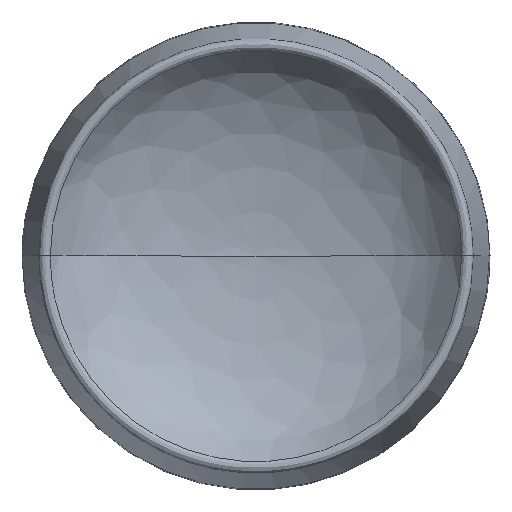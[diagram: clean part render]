
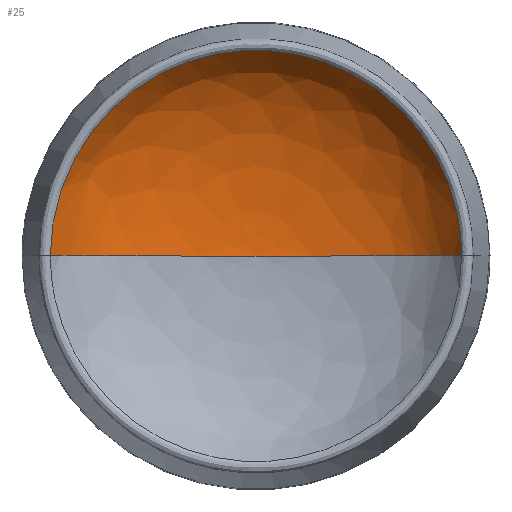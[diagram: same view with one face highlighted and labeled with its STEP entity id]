
A CAD part, top view. The second image highlights one B-rep face of the part: STEP entity #25.
In plain terms, the highlighted free-form (B-spline) face has degree [2, 3] with [5, 5] control points.
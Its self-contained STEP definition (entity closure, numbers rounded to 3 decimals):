
#25=ADVANCED_FACE('',(#43),#237,.T.);
#43=FACE_OUTER_BOUND('',#61,.T.);
#61=EDGE_LOOP('',(#80,#81,#82));
#80=ORIENTED_EDGE('',*,*,#167,.T.);
#81=ORIENTED_EDGE('',*,*,#148,.F.);
#82=ORIENTED_EDGE('',*,*,#157,.F.);
#148=EDGE_CURVE('',#217,#216,#210,.T.);
#157=EDGE_CURVE('',#224,#217,#189,.T.);
#167=EDGE_CURVE('',#224,#216,#213,.T.);
#189=(
BOUNDED_CURVE()
B_SPLINE_CURVE(2,(#882,#883,#884,#885,#886),.UNSPECIFIED.,.F.,.F.)
B_SPLINE_CURVE_WITH_KNOTS((3,2,3),(0.,206.928,413.856),
 .UNSPECIFIED.)
CURVE()
GEOMETRIC_REPRESENTATION_ITEM()
RATIONAL_B_SPLINE_CURVE((1.,0.707,1.,0.707,1.))
REPRESENTATION_ITEM('')
);
#210=B_SPLINE_CURVE_WITH_KNOTS('',3,(#844,#845,#846,#847,#848),
 .UNSPECIFIED.,.F.,.F.,(4,1,4),(0.,88.294,146.133),
 .UNSPECIFIED.);
#213=B_SPLINE_CURVE_WITH_KNOTS('',3,(#925,#926,#927,#928,#929),
 .UNSPECIFIED.,.F.,.F.,(4,1,4),(0.,88.294,
146.133),.UNSPECIFIED.);
#216=VERTEX_POINT('',#825);
#217=VERTEX_POINT('',#826);
#224=VERTEX_POINT('',#833);
#237=(
BOUNDED_SURFACE()
B_SPLINE_SURFACE(2,3,((#283,#284,#285,#286,#287),(#288,#289,#290,#291,#292),
(#293,#294,#295,#296,#297),(#298,#299,#300,#301,#302),(#303,#304,#305,#306,
#307)),.UNSPECIFIED.,.F.,.F.,.F.)
B_SPLINE_SURFACE_WITH_KNOTS((3,2,3),(4,1,4),(0.,206.928,413.856),
(0.,88.294,146.133),.UNSPECIFIED.)
GEOMETRIC_REPRESENTATION_ITEM()
RATIONAL_B_SPLINE_SURFACE(((1.,1.,1.,1.,1.),(0.707,0.707,
0.707,0.707,0.707),(1.,1.,1.,1.,1.),
(0.707,0.707,0.707,0.707,
0.707),(1.,1.,1.,1.,1.)))
REPRESENTATION_ITEM('')
SURFACE()
);
#283=CARTESIAN_POINT('',(131.734,0.,60.391));
#284=CARTESIAN_POINT('',(116.836,0.,34.285));
#285=CARTESIAN_POINT('',(67.117,0.,16.291));
#286=CARTESIAN_POINT('',(19.212,0.,13.));
#287=CARTESIAN_POINT('',(0.,0.,13.));
#288=CARTESIAN_POINT('',(131.734,131.734,60.391));
#289=CARTESIAN_POINT('',(116.836,116.836,34.285));
#290=CARTESIAN_POINT('',(67.117,67.117,16.291));
#291=CARTESIAN_POINT('',(19.212,19.212,13.));
#292=CARTESIAN_POINT('',(0.,0.,13.));
#293=CARTESIAN_POINT('',(0.,131.734,60.391));
#294=CARTESIAN_POINT('',(0.,116.836,34.285));
#295=CARTESIAN_POINT('',(0.,67.117,16.291));
#296=CARTESIAN_POINT('',(0.,19.212,13.));
#297=CARTESIAN_POINT('',(0.,0.,13.));
#298=CARTESIAN_POINT('',(-131.734,131.734,60.391));
#299=CARTESIAN_POINT('',(-116.836,116.836,34.285));
#300=CARTESIAN_POINT('',(-67.117,67.117,16.291));
#301=CARTESIAN_POINT('',(-19.212,19.212,13.));
#302=CARTESIAN_POINT('',(0.,0.,13.));
#303=CARTESIAN_POINT('',(-131.734,0.,60.391));
#304=CARTESIAN_POINT('',(-116.836,0.,34.285));
#305=CARTESIAN_POINT('',(-67.117,0.,16.291));
#306=CARTESIAN_POINT('',(-19.212,0.,13.));
#307=CARTESIAN_POINT('',(0.,0.,13.));
#825=CARTESIAN_POINT('',(0.,0.,13.));
#826=CARTESIAN_POINT('',(131.734,0.,60.391));
#833=CARTESIAN_POINT('',(-131.734,0.,60.391));
#844=CARTESIAN_POINT('',(131.734,0.,60.391));
#845=CARTESIAN_POINT('',(116.836,0.,34.285));
#846=CARTESIAN_POINT('',(67.117,0.,16.291));
#847=CARTESIAN_POINT('',(19.212,0.,13.));
#848=CARTESIAN_POINT('',(0.,0.,13.));
#882=CARTESIAN_POINT('',(-131.734,0.,60.391));
#883=CARTESIAN_POINT('',(-131.734,131.734,60.391));
#884=CARTESIAN_POINT('',(0.,131.734,60.391));
#885=CARTESIAN_POINT('',(131.734,131.734,60.391));
#886=CARTESIAN_POINT('',(131.734,0.,60.391));
#925=CARTESIAN_POINT('',(-131.734,0.,60.391));
#926=CARTESIAN_POINT('',(-116.836,0.,34.285));
#927=CARTESIAN_POINT('',(-67.117,0.,16.291));
#928=CARTESIAN_POINT('',(-19.212,0.,13.));
#929=CARTESIAN_POINT('',(0.,0.,13.));
